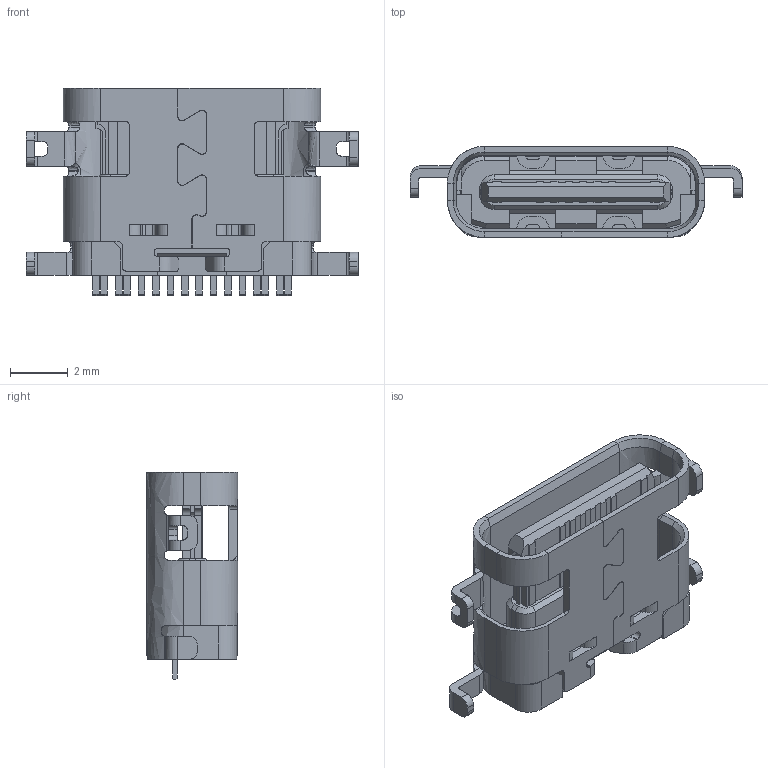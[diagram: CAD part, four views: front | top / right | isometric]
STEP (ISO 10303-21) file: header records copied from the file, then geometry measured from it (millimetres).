
FILE_DESCRIPTION (( 'STEP AP203' ), '1' );
FILE_NAME ('GT-USB-7014D.STEP', '2023-04-19T08:45:58', ( '' ), ( '' ), 'SwSTEP 2.0', 'SolidWorks 2023', '' );
FILE_SCHEMA (( 'CONFIG_CONTROL_DESIGN' ));
Products named in the file (1): GT-USB-7014D
Bounding box: 11.54 x 3.17 x 7.2 mm (x, y, z)
Surface area: 431.6 mm2 (no closed solid volume)
Topology: 0 solids, 19 shells, 976 faces, 2724 edges, 1786 vertices
Faces by surface type: bspline 774, plane 202
Entity records: 35535 total; most frequent: CARTESIAN_POINT 15378, ORIENTED_EDGE 5446, EDGE_CURVE 2724, DIRECTION 1991, VERTEX_POINT 1786, VECTOR 1489, LINE 1489, B_SPLINE_CURVE_WITH_KNOTS 1053
